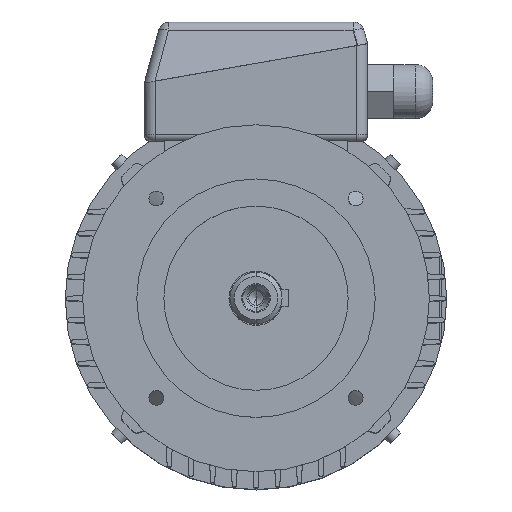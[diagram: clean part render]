
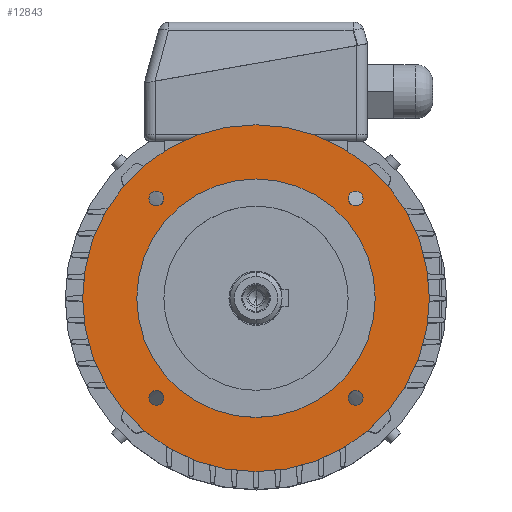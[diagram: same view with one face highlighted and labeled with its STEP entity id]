
A CAD part, top view. The second image highlights one B-rep face of the part: STEP entity #12843.
In plain terms, the highlighted planar face has unit normal (0, 0, 1).
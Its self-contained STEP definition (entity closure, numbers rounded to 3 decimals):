
#85 = CIRCLE ( 'NONE', #86, 80. ) ;
#86 = AXIS2_PLACEMENT_3D ( 'NONE', #87, #88, #89 ) ;
#87 = CARTESIAN_POINT ( 'NONE',  ( 0., 0., 40. ) ) ;
#88 = DIRECTION ( 'NONE',  ( 0., 0., -1. ) ) ;
#89 = DIRECTION ( 'NONE',  ( 0., 1., 0. ) ) ;
#16478 = EDGE_CURVE ( 'NONE', #9022, #9048, #11444, .T. ) ;
#500 = ORIENTED_EDGE ( 'NONE', *, *, #13718, .F. ) ;
#732 = VERTEX_POINT ( 'NONE', #14554 ) ;
#804 = CIRCLE ( 'NONE', #805, 55. ) ;
#805 = AXIS2_PLACEMENT_3D ( 'NONE', #806, #807, #808 ) ;
#806 = CARTESIAN_POINT ( 'NONE',  ( 0., 0., 40. ) ) ;
#807 = DIRECTION ( 'NONE',  ( 0., 0., -1. ) ) ;
#808 = DIRECTION ( 'NONE',  ( 0., 1., 0. ) ) ;
#988 = EDGE_CURVE ( 'NONE', #8316, #732, #14713, .T. ) ;
#1014 = ORIENTED_EDGE ( 'NONE', *, *, #12987, .F. ) ;
#17716 = CARTESIAN_POINT ( 'NONE',  ( 0., -80., 40. ) ) ;
#17963 = CARTESIAN_POINT ( 'NONE',  ( 0., 80., 40. ) ) ;
#1805 = EDGE_CURVE ( 'NONE', #4763, #5049, #15490, .T. ) ;
#1999 = ORIENTED_EDGE ( 'NONE', *, *, #1805, .F. ) ;
#2169 = VERTEX_POINT ( 'NONE', #15804 ) ;
#2421 = CARTESIAN_POINT ( 'NONE',  ( -49.362, 45.962, 40. ) ) ;
#2439 = EDGE_CURVE ( 'NONE', #9021, #2169, #16098, .T. ) ;
#3095 = CARTESIAN_POINT ( 'NONE',  ( 42.562, 45.962, 40. ) ) ;
#3104 = CARTESIAN_POINT ( 'NONE',  ( 0., -55., 40. ) ) ;
#3117 = CARTESIAN_POINT ( 'NONE',  ( 0., 55., 40. ) ) ;
#3395 = CARTESIAN_POINT ( 'NONE',  ( 42.562, -45.962, 40. ) ) ;
#4197 = ORIENTED_EDGE ( 'NONE', *, *, #5293, .F. ) ;
#4357 = CIRCLE ( 'NONE', #4358, 3.4 ) ;
#4358 = AXIS2_PLACEMENT_3D ( 'NONE', #4359, #4360, #4365 ) ;
#4359 = CARTESIAN_POINT ( 'NONE',  ( 45.962, 45.962, 40. ) ) ;
#4360 = DIRECTION ( 'NONE',  ( 0., 0., 1. ) ) ;
#4365 = DIRECTION ( 'NONE',  ( 1., 0., 0. ) ) ;
#4763 = VERTEX_POINT ( 'NONE', #17716 ) ;
#4764 = EDGE_LOOP ( 'NONE', ( #15772, #12272 ) ) ;
#4885 = CIRCLE ( 'NONE', #4886, 3.4 ) ;
#4886 = AXIS2_PLACEMENT_3D ( 'NONE', #4887, #4888, #4889 ) ;
#4887 = CARTESIAN_POINT ( 'NONE',  ( -45.962, 45.962, 40. ) ) ;
#4888 = DIRECTION ( 'NONE',  ( 0., 0., 1. ) ) ;
#4889 = DIRECTION ( 'NONE',  ( 1., 0., 0. ) ) ;
#5023 = ORIENTED_EDGE ( 'NONE', *, *, #2439, .F. ) ;
#5049 = VERTEX_POINT ( 'NONE', #17963 ) ;
#5293 = EDGE_CURVE ( 'NONE', #5049, #4763, #85, .T. ) ;
#5504 = EDGE_LOOP ( 'NONE', ( #15865, #1014 ) ) ;
#5960 = EDGE_LOOP ( 'NONE', ( #500, #13668 ) ) ;
#6176 = FACE_BOUND ( 'NONE', #8515, .T. ) ;
#6184 = FACE_BOUND ( 'NONE', #5504, .T. ) ;
#6185 = FACE_BOUND ( 'NONE', #5960, .T. ) ;
#6186 = FACE_BOUND ( 'NONE', #13600, .T. ) ;
#6187 = FACE_BOUND ( 'NONE', #4764, .T. ) ;
#6188 = FACE_OUTER_BOUND ( 'NONE', #12080, .T. ) ;
#6189 = PLANE ( 'NONE',  #6190 ) ;
#6190 = AXIS2_PLACEMENT_3D ( 'NONE', #6191, #6192, #6193 ) ;
#6191 = CARTESIAN_POINT ( 'NONE',  ( 0., 80., 40. ) ) ;
#6192 = DIRECTION ( 'NONE',  ( 0., 0., 1. ) ) ;
#6193 = DIRECTION ( 'NONE',  ( 0., -1., 0. ) ) ;
#6372 = EDGE_CURVE ( 'NONE', #9048, #9022, #804, .T. ) ;
#6388 = CARTESIAN_POINT ( 'NONE',  ( -42.562, -45.962, 40. ) ) ;
#6541 = CIRCLE ( 'NONE', #6542, 3.4 ) ;
#6542 = AXIS2_PLACEMENT_3D ( 'NONE', #6543, #6544, #6545 ) ;
#6543 = CARTESIAN_POINT ( 'NONE',  ( -45.962, -45.962, 40. ) ) ;
#6544 = DIRECTION ( 'NONE',  ( 0., 0., 1. ) ) ;
#6545 = DIRECTION ( 'NONE',  ( 1., 0., 0. ) ) ;
#8316 = VERTEX_POINT ( 'NONE', #2421 ) ;
#8484 = CIRCLE ( 'NONE', #8485, 3.4 ) ;
#8485 = AXIS2_PLACEMENT_3D ( 'NONE', #8496, #8497, #8498 ) ;
#8496 = CARTESIAN_POINT ( 'NONE',  ( 45.962, -45.962, 40. ) ) ;
#8497 = DIRECTION ( 'NONE',  ( 0., 0., 1. ) ) ;
#8498 = DIRECTION ( 'NONE',  ( 1., 0., 0. ) ) ;
#8515 = EDGE_LOOP ( 'NONE', ( #11622, #13132 ) ) ;
#8778 = CARTESIAN_POINT ( 'NONE',  ( 49.362, -45.962, 40. ) ) ;
#8899 = CIRCLE ( 'NONE', #8900, 3.4 ) ;
#8900 = AXIS2_PLACEMENT_3D ( 'NONE', #8901, #8902, #8903 ) ;
#8901 = CARTESIAN_POINT ( 'NONE',  ( 45.962, -45.962, 40. ) ) ;
#8902 = DIRECTION ( 'NONE',  ( 0., 0., 1. ) ) ;
#8903 = DIRECTION ( 'NONE',  ( 1., 0., 0. ) ) ;
#9021 = VERTEX_POINT ( 'NONE', #3095 ) ;
#9022 = VERTEX_POINT ( 'NONE', #3104 ) ;
#9048 = VERTEX_POINT ( 'NONE', #3117 ) ;
#9363 = VERTEX_POINT ( 'NONE', #3395 ) ;
#10025 = CIRCLE ( 'NONE', #10026, 3.4 ) ;
#10026 = AXIS2_PLACEMENT_3D ( 'NONE', #10027, #10028, #10029 ) ;
#10027 = CARTESIAN_POINT ( 'NONE',  ( -45.962, -45.962, 40. ) ) ;
#10028 = DIRECTION ( 'NONE',  ( 0., 0., 1. ) ) ;
#10029 = DIRECTION ( 'NONE',  ( 1., 0., 0. ) ) ;
#10271 = CARTESIAN_POINT ( 'NONE',  ( -49.362, -45.962, 40. ) ) ;
#10532 = EDGE_CURVE ( 'NONE', #2169, #9021, #4357, .T. ) ;
#10727 = ORIENTED_EDGE ( 'NONE', *, *, #10532, .F. ) ;
#11283 = EDGE_CURVE ( 'NONE', #732, #8316, #4885, .T. ) ;
#11444 = CIRCLE ( 'NONE', #11445, 55. ) ;
#11445 = AXIS2_PLACEMENT_3D ( 'NONE', #11446, #11447, #11448 ) ;
#11446 = CARTESIAN_POINT ( 'NONE',  ( 0., 0., 40. ) ) ;
#11447 = DIRECTION ( 'NONE',  ( 0., 0., -1. ) ) ;
#11448 = DIRECTION ( 'NONE',  ( 0., 1., 0. ) ) ;
#11622 = ORIENTED_EDGE ( 'NONE', *, *, #11283, .F. ) ;
#12080 = EDGE_LOOP ( 'NONE', ( #4197, #1999 ) ) ;
#12272 = ORIENTED_EDGE ( 'NONE', *, *, #16478, .T. ) ;
#12843 = ADVANCED_FACE ( 'NONE', ( #6176, #6184, #6185, #6186, #6187, #6188 ), #6189, .T. ) ;
#12923 = VERTEX_POINT ( 'NONE', #6388 ) ;
#12987 = EDGE_CURVE ( 'NONE', #14873, #12923, #6541, .T. ) ;
#13132 = ORIENTED_EDGE ( 'NONE', *, *, #988, .F. ) ;
#13600 = EDGE_LOOP ( 'NONE', ( #10727, #5023 ) ) ;
#13668 = ORIENTED_EDGE ( 'NONE', *, *, #13868, .F. ) ;
#13718 = EDGE_CURVE ( 'NONE', #13788, #9363, #8484, .T. ) ;
#13788 = VERTEX_POINT ( 'NONE', #8778 ) ;
#13868 = EDGE_CURVE ( 'NONE', #9363, #13788, #8899, .T. ) ;
#14435 = EDGE_CURVE ( 'NONE', #12923, #14873, #10025, .T. ) ;
#14554 = CARTESIAN_POINT ( 'NONE',  ( -42.562, 45.962, 40. ) ) ;
#14713 = CIRCLE ( 'NONE', #14721, 3.4 ) ;
#14721 = AXIS2_PLACEMENT_3D ( 'NONE', #14722, #14723, #14724 ) ;
#14722 = CARTESIAN_POINT ( 'NONE',  ( -45.962, 45.962, 40. ) ) ;
#14723 = DIRECTION ( 'NONE',  ( 0., 0., 1. ) ) ;
#14724 = DIRECTION ( 'NONE',  ( 1., 0., 0. ) ) ;
#14873 = VERTEX_POINT ( 'NONE', #10271 ) ;
#15490 = CIRCLE ( 'NONE', #15491, 80. ) ;
#15491 = AXIS2_PLACEMENT_3D ( 'NONE', #15492, #15493, #15494 ) ;
#15492 = CARTESIAN_POINT ( 'NONE',  ( 0., 0., 40. ) ) ;
#15493 = DIRECTION ( 'NONE',  ( 0., 0., -1. ) ) ;
#15494 = DIRECTION ( 'NONE',  ( 0., 1., 0. ) ) ;
#15772 = ORIENTED_EDGE ( 'NONE', *, *, #6372, .T. ) ;
#15804 = CARTESIAN_POINT ( 'NONE',  ( 49.362, 45.962, 40. ) ) ;
#15865 = ORIENTED_EDGE ( 'NONE', *, *, #14435, .F. ) ;
#16098 = CIRCLE ( 'NONE', #16102, 3.4 ) ;
#16102 = AXIS2_PLACEMENT_3D ( 'NONE', #16103, #16104, #16105 ) ;
#16103 = CARTESIAN_POINT ( 'NONE',  ( 45.962, 45.962, 40. ) ) ;
#16104 = DIRECTION ( 'NONE',  ( 0., 0., 1. ) ) ;
#16105 = DIRECTION ( 'NONE',  ( 1., 0., 0. ) ) ;
